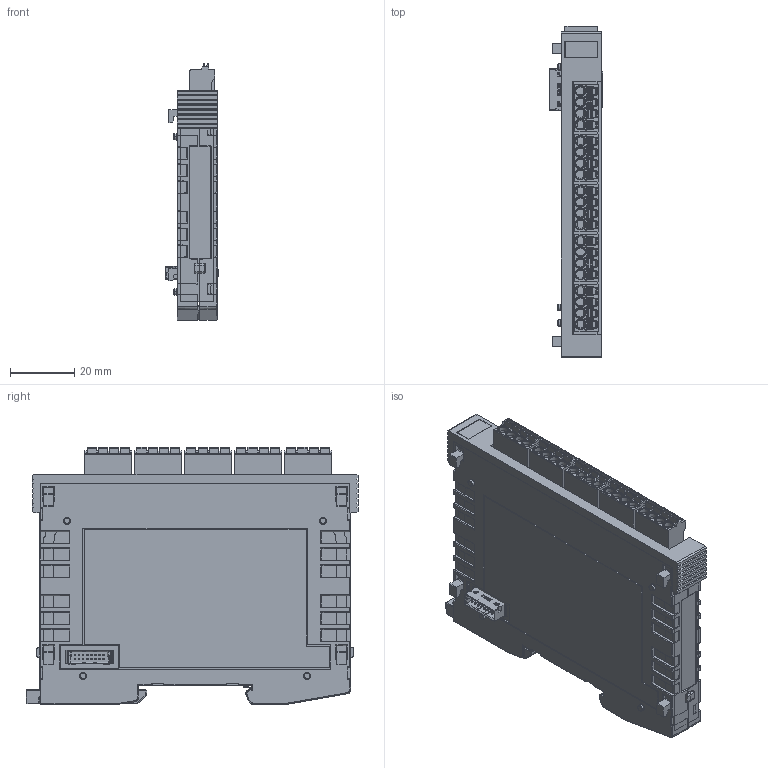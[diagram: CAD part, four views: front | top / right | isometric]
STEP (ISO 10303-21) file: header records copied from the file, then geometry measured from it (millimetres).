
FILE_DESCRIPTION (( 'STEP AP214' ), '1' );
FILE_NAME ('TO161.STEP', '2013-12-02T08:53:28', ( 'gianik' ), ( '' ), 'SwSTEP 2.0', 'SolidWorks 2013', '' );
FILE_SCHEMA (( 'AUTOMOTIVE_DESIGN' ));
Length unit declared in the file: millimetre
Products named in the file (1): TO161
Bounding box: 16.8 x 103.74 x 80.33 mm (x, y, z)
Surface area: 65121.8 mm2 (no closed solid volume)
Topology: 0 solids, 59 shells, 2307 faces, 9550 edges, 6921 vertices
Faces by surface type: plane 1294, cylinder 710, bspline 173, cone 130
Entity records: 127357 total; most frequent: CARTESIAN_POINT 27829, ORIENTED_EDGE 14920, DIRECTION 13981, EDGE_CURVE 9540, VERTEX_POINT 6921, LINE 6313, VECTOR 6313, AXIS2_PLACEMENT_3D 3834
